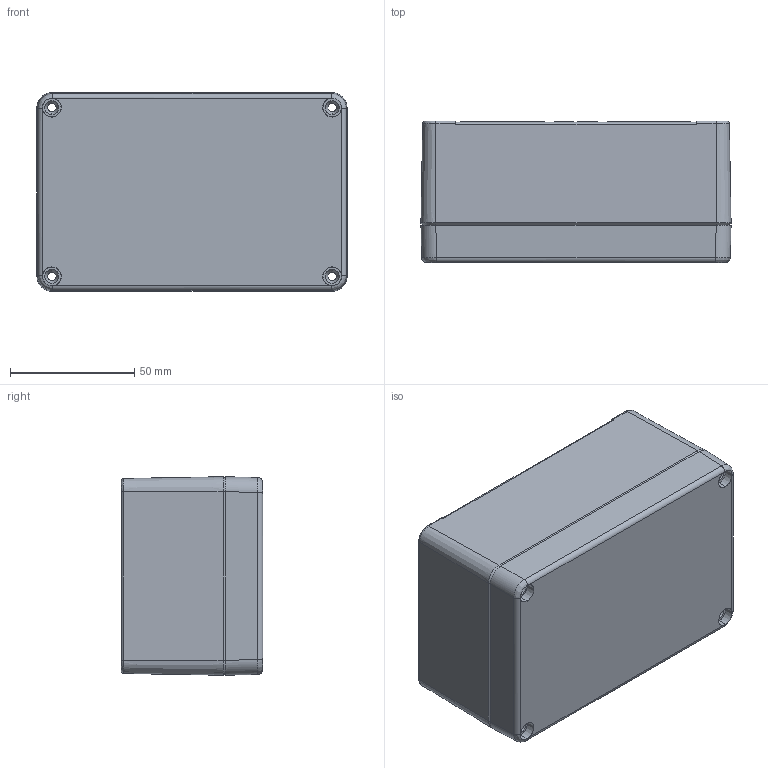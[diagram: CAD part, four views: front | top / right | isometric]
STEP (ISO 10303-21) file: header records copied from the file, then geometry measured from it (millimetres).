
FILE_DESCRIPTION (( 'STEP AP203' ), '1' );
FILE_NAME ('ALU ASSY 1258057.STEP', '2024-08-27T07:10:17', ( '' ), ( '' ), 'SwSTEP 2.0', 'SolidWorks 2018', '' );
FILE_SCHEMA (( 'CONFIG_CONTROL_DESIGN' ));
Length unit declared in the file: millimetre
Products named in the file (3): ALU BASE 1258057; ALU ASSY 1258057; ALU LID 1258057
Assembly tree (2 placements, depth 2):
  ALU ASSY 1258057
    ALU BASE 1258057
    ALU LID 1258057
Bounding box: 125 x 57 x 80 mm (x, y, z)
Volume: 155104.5 mm3; surface area: 88373.9 mm2
Topology: 2 solids, 2 shells, 803 faces, 2035 edges, 1296 vertices
Faces by surface type: plane 333, bspline 227, cylinder 126, cone 117
Entity records: 37218 total; most frequent: CARTESIAN_POINT 19220, ORIENTED_EDGE 4050, DIRECTION 2986, EDGE_CURVE 2025, VERTEX_POINT 1296, VECTOR 1120, LINE 1120, AXIS2_PLACEMENT_3D 933
